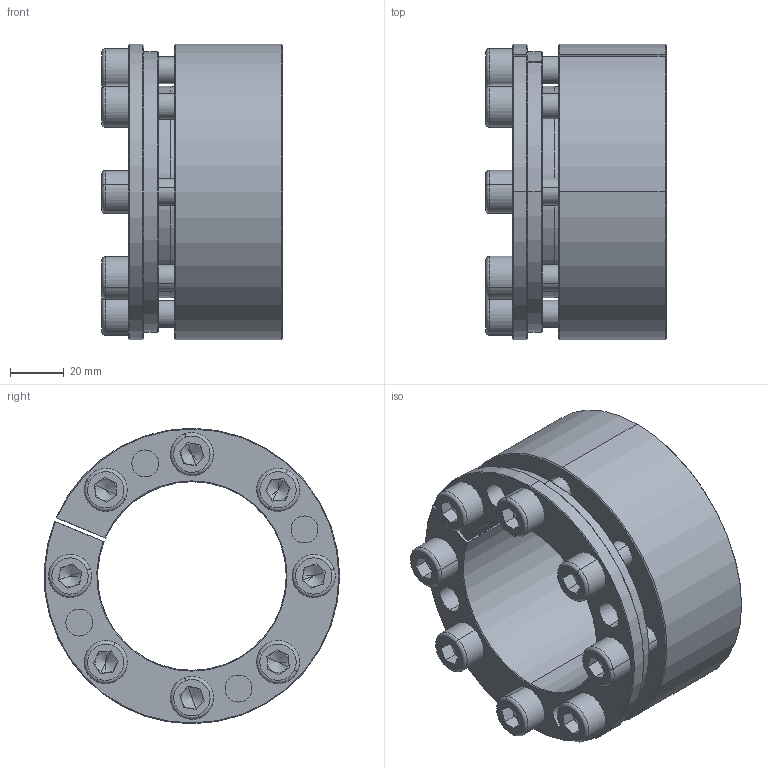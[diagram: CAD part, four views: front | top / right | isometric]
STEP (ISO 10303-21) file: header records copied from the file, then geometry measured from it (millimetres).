
FILE_DESCRIPTION (( 'STEP AP214' ), '1' );
FILE_NAME ('PL-H2 70-110.STEP', '2022-07-25T02:15:20', ( '' ), ( '' ), 'SwSTEP 2.0', 'SolidWorks 2022', '' );
FILE_SCHEMA (( 'AUTOMOTIVE_DESIGN' ));
Length unit declared in the file: millimetre
Products named in the file (1): PL-H2 70-110
Bounding box: 67 x 109.8 x 109.88 mm (x, y, z)
Volume: 287042.4 mm3; surface area: 69777.9 mm2
Topology: 1 solids, 1 shells, 299 faces, 733 edges, 452 vertices
Faces by surface type: plane 128, cylinder 87, cone 68, torus 16
Entity records: 8834 total; most frequent: DIRECTION 1634, CARTESIAN_POINT 1541, ORIENTED_EDGE 1434, EDGE_CURVE 717, AXIS2_PLACEMENT_3D 641, VERTEX_POINT 452, EDGE_LOOP 355, LINE 352
